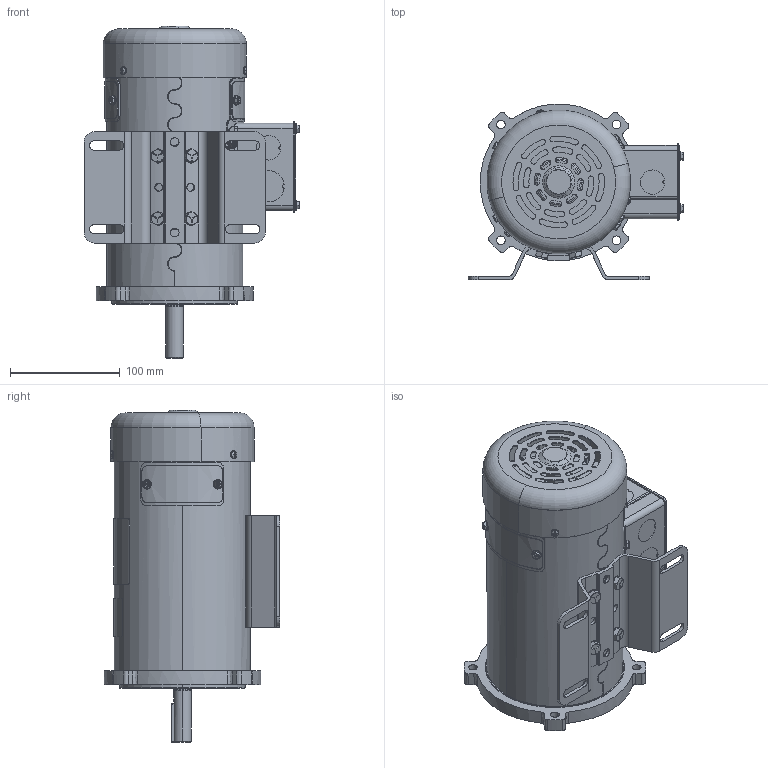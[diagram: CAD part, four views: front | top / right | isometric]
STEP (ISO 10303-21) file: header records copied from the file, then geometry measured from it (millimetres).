
FILE_DESCRIPTION (( 'STEP AP203' ), '1' );
FILE_NAME ('027620-098010_Rev08.STEP', '2018-02-20T11:07:06', ( '' ), ( '' ), 'SwSTEP 2.0', 'SolidWorks 2015', '' );
FILE_SCHEMA (( 'CONFIG_CONTROL_DESIGN' ));
Length unit declared in the file: inch
Products named in the file (1): 027620-098010_Rev08
Bounding box: 196.62 x 160.28 x 302.53 mm (x, y, z)
Volume: 863294.2 mm3; surface area: 493807.4 mm2
Topology: 51 solids, 51 shells, 3169 faces, 7694 edges, 4631 vertices
Faces by surface type: plane 912, cylinder 906, bspline 708, cone 281, torus 278, sphere 84
Entity records: 120711 total; most frequent: CARTESIAN_POINT 51347, ORIENTED_EDGE 15188, DIRECTION 13382, EDGE_CURVE 7594, AXIS2_PLACEMENT_3D 5289, VERTEX_POINT 4631, EDGE_LOOP 3463, ADVANCED_FACE 3169
